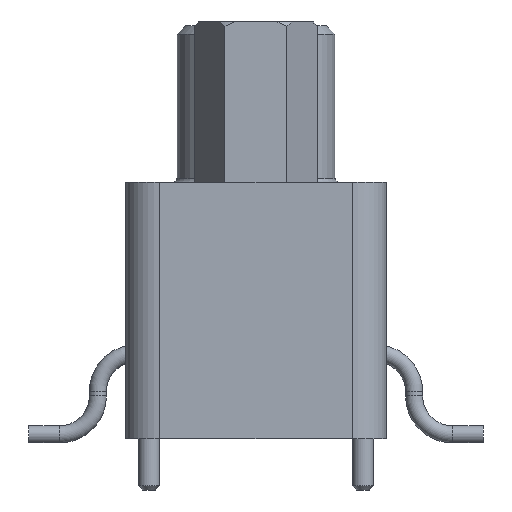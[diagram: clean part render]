
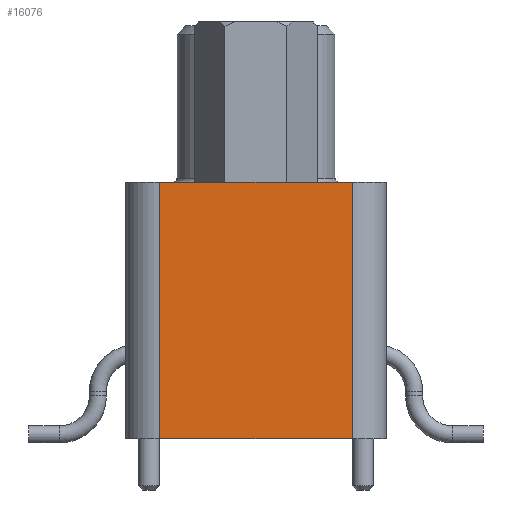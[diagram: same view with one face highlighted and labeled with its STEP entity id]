
A CAD part, left-side view. The second image highlights one B-rep face of the part: STEP entity #16076.
In plain terms, the highlighted planar face has unit normal (-1, 0, 0).
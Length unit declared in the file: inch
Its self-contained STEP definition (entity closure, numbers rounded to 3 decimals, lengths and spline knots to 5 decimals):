
#126 = DIRECTION ( 'NONE',  ( 0., 1., 0. ) ) ;
#2810 = AXIS2_PLACEMENT_3D ( 'NONE', #52694, #45361, #20334 ) ;
#4947 = CARTESIAN_POINT ( 'NONE',  ( -0.4625, -0.1125, -0.258 ) ) ;
#8505 = CARTESIAN_POINT ( 'NONE',  ( -0.4625, -0.1125, 0.042 ) ) ;
#8897 = VERTEX_POINT ( 'NONE', #28019 ) ;
#10318 = LINE ( 'NONE', #52528, #18012 ) ;
#11143 = VERTEX_POINT ( 'NONE', #4947 ) ;
#12019 = FACE_OUTER_BOUND ( 'NONE', #21847, .T. ) ;
#12278 = CARTESIAN_POINT ( 'NONE',  ( -0.4625, 0.1125, 0.042 ) ) ;
#12693 = LINE ( 'NONE', #25017, #51366 ) ;
#13311 = VECTOR ( 'NONE', #48228, 39.37008 ) ;
#13796 = VECTOR ( 'NONE', #24849, 39.37008 ) ;
#15743 = CARTESIAN_POINT ( 'NONE',  ( -0.4625, 0.1125, -0.258 ) ) ;
#16076 = ADVANCED_FACE ( 'NONE', ( #12019 ), #36326, .T. ) ;
#18012 = VECTOR ( 'NONE', #48433, 39.37008 ) ;
#18313 = VERTEX_POINT ( 'NONE', #12278 ) ;
#20334 = DIRECTION ( 'NONE',  ( 0., 0., 1. ) ) ;
#21847 = EDGE_LOOP ( 'NONE', ( #49393, #37597, #31535, #24525 ) ) ;
#24525 = ORIENTED_EDGE ( 'NONE', *, *, #49398, .T. ) ;
#24849 = DIRECTION ( 'NONE',  ( 0., 0., -1. ) ) ;
#25017 = CARTESIAN_POINT ( 'NONE',  ( -0.4625, -0.1125, 0.042 ) ) ;
#28019 = CARTESIAN_POINT ( 'NONE',  ( -0.4625, -0.1125, 0.042 ) ) ;
#28841 = EDGE_CURVE ( 'NONE', #8897, #11143, #45087, .T. ) ;
#31021 = EDGE_CURVE ( 'NONE', #18313, #33383, #40778, .T. ) ;
#31535 = ORIENTED_EDGE ( 'NONE', *, *, #28841, .F. ) ;
#32428 = CARTESIAN_POINT ( 'NONE',  ( -0.4625, 0.1125, 0.042 ) ) ;
#33383 = VERTEX_POINT ( 'NONE', #15743 ) ;
#35962 = EDGE_CURVE ( 'NONE', #11143, #33383, #10318, .T. ) ;
#36326 = PLANE ( 'NONE',  #2810 ) ;
#37597 = ORIENTED_EDGE ( 'NONE', *, *, #35962, .F. ) ;
#40778 = LINE ( 'NONE', #32428, #13311 ) ;
#45087 = LINE ( 'NONE', #8505, #13796 ) ;
#45361 = DIRECTION ( 'NONE',  ( -1., 0., 0. ) ) ;
#48228 = DIRECTION ( 'NONE',  ( 0., 0., -1. ) ) ;
#48433 = DIRECTION ( 'NONE',  ( 0., 1., 0. ) ) ;
#49393 = ORIENTED_EDGE ( 'NONE', *, *, #31021, .T. ) ;
#49398 = EDGE_CURVE ( 'NONE', #8897, #18313, #12693, .T. ) ;
#51366 = VECTOR ( 'NONE', #126, 39.37008 ) ;
#52528 = CARTESIAN_POINT ( 'NONE',  ( -0.4625, -0.1125, -0.258 ) ) ;
#52694 = CARTESIAN_POINT ( 'NONE',  ( -0.4625, -0.1125, 0.042 ) ) ;
